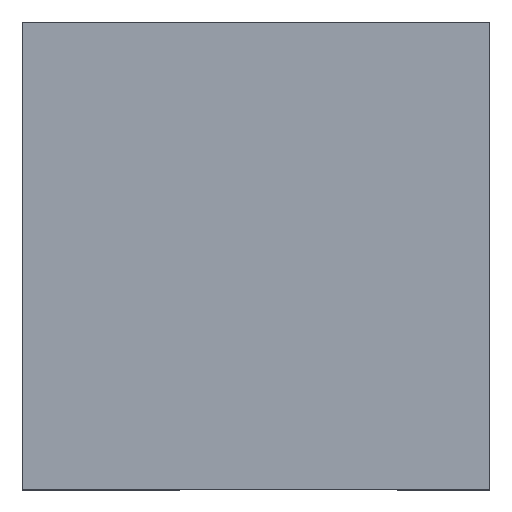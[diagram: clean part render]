
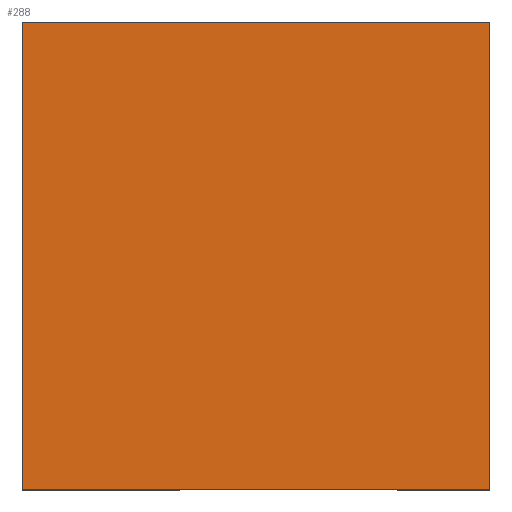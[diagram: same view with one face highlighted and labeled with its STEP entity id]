
A CAD part, top view. The second image highlights one B-rep face of the part: STEP entity #288.
In plain terms, the highlighted planar face has unit normal (0, 0, 1).
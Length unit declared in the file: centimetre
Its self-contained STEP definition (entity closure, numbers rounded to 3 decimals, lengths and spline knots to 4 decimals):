
#20 = VECTOR ( 'NONE', #1018, 100. ) ;
#71 = DIRECTION ( 'NONE',  ( -1., 0., 0. ) ) ;
#99 = FACE_OUTER_BOUND ( 'NONE', #720, .T. ) ;
#181 = CARTESIAN_POINT ( 'NONE',  ( 1000., 0., 1000. ) ) ;
#185 = CARTESIAN_POINT ( 'NONE',  ( 0., 1000., 1000. ) ) ;
#264 = VERTEX_POINT ( 'NONE', #1111 ) ;
#286 = DIRECTION ( 'NONE',  ( 1., 0., 0. ) ) ;
#287 = CARTESIAN_POINT ( 'NONE',  ( 0., 0., 1000. ) ) ;
#288 = ADVANCED_FACE ( 'NONE', ( #99 ), #655, .T. ) ;
#306 = EDGE_CURVE ( 'NONE', #492, #1068, #387, .T. ) ;
#345 = ORIENTED_EDGE ( 'NONE', *, *, #688, .T. ) ;
#376 = DIRECTION ( 'NONE',  ( 0., 0., 1. ) ) ;
#387 = LINE ( 'NONE', #833, #20 ) ;
#400 = CARTESIAN_POINT ( 'NONE',  ( 1000., 1000., 1000. ) ) ;
#438 = VECTOR ( 'NONE', #777, 100. ) ;
#452 = LINE ( 'NONE', #1000, #533 ) ;
#464 = CARTESIAN_POINT ( 'NONE',  ( 0., 0., 1000. ) ) ;
#492 = VERTEX_POINT ( 'NONE', #287 ) ;
#533 = VECTOR ( 'NONE', #71, 100. ) ;
#602 = EDGE_CURVE ( 'NONE', #661, #492, #656, .T. ) ;
#655 = PLANE ( 'NONE',  #689 ) ;
#656 = LINE ( 'NONE', #185, #974 ) ;
#661 = VERTEX_POINT ( 'NONE', #975 ) ;
#688 = EDGE_CURVE ( 'NONE', #1068, #264, #960, .T. ) ;
#689 = AXIS2_PLACEMENT_3D ( 'NONE', #464, #376, #286 ) ;
#697 = ORIENTED_EDGE ( 'NONE', *, *, #882, .T. ) ;
#720 = EDGE_LOOP ( 'NONE', ( #938, #942, #345, #697 ) ) ;
#777 = DIRECTION ( 'NONE',  ( 0., 1., 0. ) ) ;
#833 = CARTESIAN_POINT ( 'NONE',  ( 0., 0., 1000. ) ) ;
#882 = EDGE_CURVE ( 'NONE', #264, #661, #452, .T. ) ;
#938 = ORIENTED_EDGE ( 'NONE', *, *, #602, .T. ) ;
#942 = ORIENTED_EDGE ( 'NONE', *, *, #306, .T. ) ;
#960 = LINE ( 'NONE', #400, #438 ) ;
#974 = VECTOR ( 'NONE', #1031, 100. ) ;
#975 = CARTESIAN_POINT ( 'NONE',  ( 0., 1000., 1000. ) ) ;
#1000 = CARTESIAN_POINT ( 'NONE',  ( 0., 1000., 1000. ) ) ;
#1018 = DIRECTION ( 'NONE',  ( 1., 0., 0. ) ) ;
#1031 = DIRECTION ( 'NONE',  ( 0., -1., 0. ) ) ;
#1068 = VERTEX_POINT ( 'NONE', #181 ) ;
#1111 = CARTESIAN_POINT ( 'NONE',  ( 1000., 1000., 1000. ) ) ;
